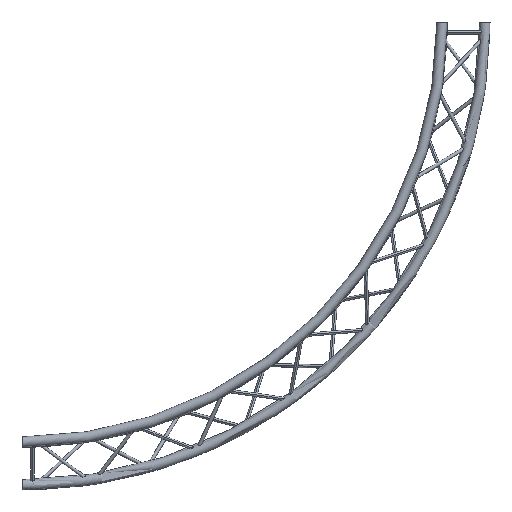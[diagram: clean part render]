
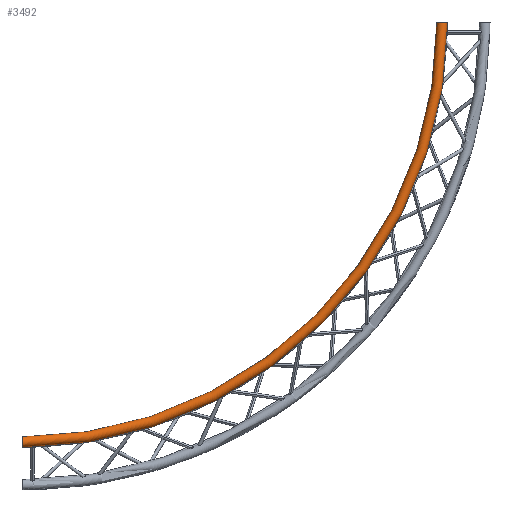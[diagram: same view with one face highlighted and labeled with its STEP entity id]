
A CAD part, front view. The second image highlights one B-rep face of the part: STEP entity #3492.
In plain terms, the highlighted toroidal (fillet/blend) face has major radius 2019.75 mm and minor radius 25 mm.
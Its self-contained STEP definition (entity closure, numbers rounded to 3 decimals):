
#211 = EDGE_CURVE ( 'NONE', #3494, #3185, #1749, .T. ) ;
#242 = VERTEX_POINT ( 'NONE', #2202 ) ;
#273 = ORIENTED_EDGE ( 'NONE', *, *, #3493, .T. ) ;
#278 = EDGE_LOOP ( 'NONE', ( #273, #3180, #3188, #3181 ) ) ;
#281 = VERTEX_POINT ( 'NONE', #2597 ) ;
#1749 = CIRCLE ( 'NONE', #1865, 1994.752 ) ;
#1862 = DIRECTION ( 'NONE',  ( 0., 0., -1. ) ) ;
#1863 = DIRECTION ( 'NONE',  ( 0., -1., 0. ) ) ;
#1864 = CARTESIAN_POINT ( 'NONE',  ( 0., -118.5, 0. ) ) ;
#1865 = AXIS2_PLACEMENT_3D ( 'NONE', #1864, #1863, #1862 ) ;
#2202 = CARTESIAN_POINT ( 'NONE',  ( 2044.752, -118.5, 0. ) ) ;
#2597 = CARTESIAN_POINT ( 'NONE',  ( 0., -118.5, -2044.752 ) ) ;
#2899 = CIRCLE ( 'NONE', #2933, 25. ) ;
#2928 = CARTESIAN_POINT ( 'NONE',  ( 1994.752, -118.5, 0. ) ) ;
#2930 = DIRECTION ( 'NONE',  ( 1., 0., 0. ) ) ;
#2931 = DIRECTION ( 'NONE',  ( 0., 0., 1. ) ) ;
#2932 = CARTESIAN_POINT ( 'NONE',  ( 2019.752, -118.5, 0. ) ) ;
#2933 = AXIS2_PLACEMENT_3D ( 'NONE', #2932, #2931, #2930 ) ;
#3179 = EDGE_CURVE ( 'NONE', #3185, #242, #2899, .T. ) ;
#3180 = ORIENTED_EDGE ( 'NONE', *, *, #3497, .T. ) ;
#3181 = ORIENTED_EDGE ( 'NONE', *, *, #211, .F. ) ;
#3185 = VERTEX_POINT ( 'NONE', #2928 ) ;
#3188 = ORIENTED_EDGE ( 'NONE', *, *, #3179, .F. ) ;
#3492 = ADVANCED_FACE ( 'NONE', ( #6324 ), #6320, .T. ) ;
#3493 = EDGE_CURVE ( 'NONE', #3494, #281, #6318, .T. ) ;
#3494 = VERTEX_POINT ( 'NONE', #6310 ) ;
#3497 = EDGE_CURVE ( 'NONE', #281, #242, #6309, .T. ) ;
#6305 = DIRECTION ( 'NONE',  ( 0., 0., -1. ) ) ;
#6306 = DIRECTION ( 'NONE',  ( 0., -1., 0. ) ) ;
#6307 = CARTESIAN_POINT ( 'NONE',  ( 0., -118.5, 0. ) ) ;
#6308 = AXIS2_PLACEMENT_3D ( 'NONE', #6307, #6306, #6305 ) ;
#6309 = CIRCLE ( 'NONE', #6308, 2044.752 ) ;
#6310 = CARTESIAN_POINT ( 'NONE',  ( 0., -118.5, -1994.752 ) ) ;
#6311 = DIRECTION ( 'NONE',  ( 0., 0., -1. ) ) ;
#6312 = DIRECTION ( 'NONE',  ( 1., 0., 0. ) ) ;
#6313 = CARTESIAN_POINT ( 'NONE',  ( 0., -118.5, -2019.752 ) ) ;
#6314 = AXIS2_PLACEMENT_3D ( 'NONE', #6313, #6312, #6311 ) ;
#6315 = DIRECTION ( 'NONE',  ( 0., 0., -1. ) ) ;
#6316 = DIRECTION ( 'NONE',  ( 0., -1., 0. ) ) ;
#6317 = AXIS2_PLACEMENT_3D ( 'NONE', #6319, #6316, #6315 ) ;
#6318 = CIRCLE ( 'NONE', #6314, 25. ) ;
#6319 = CARTESIAN_POINT ( 'NONE',  ( 0., -118.5, 0. ) ) ;
#6320 = TOROIDAL_SURFACE ( 'NONE', #6317, 2019.752, 25. ) ;
#6324 = FACE_OUTER_BOUND ( 'NONE', #278, .T. ) ;
